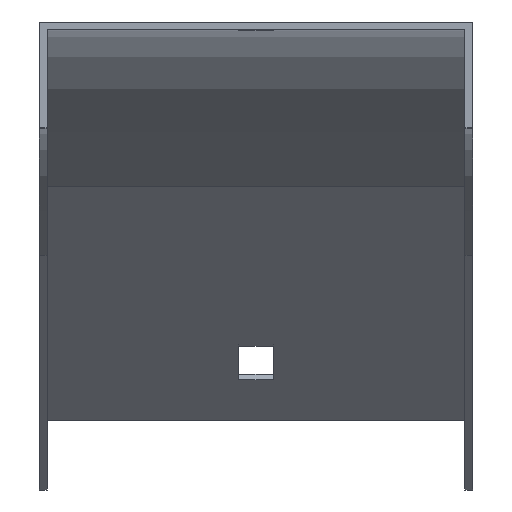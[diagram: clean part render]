
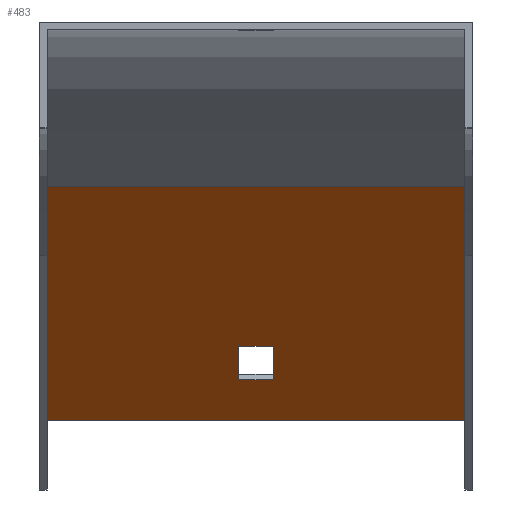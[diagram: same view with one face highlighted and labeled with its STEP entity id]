
A CAD part, top view. The second image highlights one B-rep face of the part: STEP entity #483.
In plain terms, the highlighted planar face has unit normal (0, -0.707, 0.707).
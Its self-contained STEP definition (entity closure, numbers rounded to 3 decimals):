
#13 = DIRECTION ( 'NONE',  ( 0., -0.707, -0.707 ) ) ;
#19 = EDGE_CURVE ( 'NONE', #174, #76, #768, .T. ) ;
#30 = DIRECTION ( 'NONE',  ( 0., 0.707, 0.707 ) ) ;
#44 = VERTEX_POINT ( 'NONE', #384 ) ;
#61 = CARTESIAN_POINT ( 'NONE',  ( 41., -75.146, -177.797 ) ) ;
#68 = EDGE_LOOP ( 'NONE', ( #767, #127, #553, #581 ) ) ;
#72 = CARTESIAN_POINT ( 'NONE',  ( -39.5, -75.146, -177.797 ) ) ;
#76 = VERTEX_POINT ( 'NONE', #308 ) ;
#82 = VECTOR ( 'NONE', #354, 1000. ) ;
#87 = PLANE ( 'NONE',  #834 ) ;
#127 = ORIENTED_EDGE ( 'NONE', *, *, #275, .F. ) ;
#145 = ORIENTED_EDGE ( 'NONE', *, *, #493, .T. ) ;
#154 = EDGE_LOOP ( 'NONE', ( #497, #427, #718, #145 ) ) ;
#155 = VECTOR ( 'NONE', #221, 1000. ) ;
#174 = VERTEX_POINT ( 'NONE', #853 ) ;
#178 = CARTESIAN_POINT ( 'NONE',  ( -3.25, -30.789, -133.441 ) ) ;
#186 = DIRECTION ( 'NONE',  ( 1., 0., 0. ) ) ;
#190 = CARTESIAN_POINT ( 'NONE',  ( -39.5, -30.789, -133.441 ) ) ;
#217 = CARTESIAN_POINT ( 'NONE',  ( -39.5, -30.789, -133.441 ) ) ;
#221 = DIRECTION ( 'NONE',  ( 0., 0.707, 0.707 ) ) ;
#222 = EDGE_CURVE ( 'NONE', #579, #174, #282, .T. ) ;
#232 = EDGE_CURVE ( 'NONE', #789, #597, #704, .T. ) ;
#261 = EDGE_CURVE ( 'NONE', #404, #44, #487, .T. ) ;
#275 = EDGE_CURVE ( 'NONE', #404, #789, #839, .T. ) ;
#282 = LINE ( 'NONE', #551, #82 ) ;
#308 = CARTESIAN_POINT ( 'NONE',  ( -3.25, -61.004, -163.655 ) ) ;
#337 = VECTOR ( 'NONE', #13, 1000. ) ;
#354 = DIRECTION ( 'NONE',  ( -1., 0., 0. ) ) ;
#359 = CARTESIAN_POINT ( 'NONE',  ( 3.25, -30.789, -133.441 ) ) ;
#368 = EDGE_CURVE ( 'NONE', #76, #570, #729, .T. ) ;
#384 = CARTESIAN_POINT ( 'NONE',  ( 39.5, -30.789, -133.441 ) ) ;
#404 = VERTEX_POINT ( 'NONE', #513 ) ;
#426 = DIRECTION ( 'NONE',  ( 0., 0.707, 0.707 ) ) ;
#427 = ORIENTED_EDGE ( 'NONE', *, *, #19, .T. ) ;
#483 = ADVANCED_FACE ( 'NONE', ( #688, #765 ), #87, .T. ) ;
#487 = LINE ( 'NONE', #557, #155 ) ;
#493 = EDGE_CURVE ( 'NONE', #570, #579, #614, .T. ) ;
#497 = ORIENTED_EDGE ( 'NONE', *, *, #222, .T. ) ;
#511 = CARTESIAN_POINT ( 'NONE',  ( 3.25, -61.004, -163.655 ) ) ;
#513 = CARTESIAN_POINT ( 'NONE',  ( 39.5, -75.146, -177.797 ) ) ;
#517 = DIRECTION ( 'NONE',  ( -1., 0., 0. ) ) ;
#546 = CARTESIAN_POINT ( 'NONE',  ( 41., -30.789, -133.441 ) ) ;
#551 = CARTESIAN_POINT ( 'NONE',  ( 41., -67.368, -170.019 ) ) ;
#553 = ORIENTED_EDGE ( 'NONE', *, *, #261, .T. ) ;
#555 = VECTOR ( 'NONE', #30, 1000. ) ;
#556 = DIRECTION ( 'NONE',  ( 0., -0.707, -0.707 ) ) ;
#557 = CARTESIAN_POINT ( 'NONE',  ( 39.5, -30.789, -133.441 ) ) ;
#570 = VERTEX_POINT ( 'NONE', #511 ) ;
#579 = VERTEX_POINT ( 'NONE', #629 ) ;
#581 = ORIENTED_EDGE ( 'NONE', *, *, #787, .T. ) ;
#592 = LINE ( 'NONE', #810, #595 ) ;
#595 = VECTOR ( 'NONE', #608, 1000. ) ;
#597 = VERTEX_POINT ( 'NONE', #190 ) ;
#603 = VECTOR ( 'NONE', #517, 1000. ) ;
#608 = DIRECTION ( 'NONE',  ( -1., 0., 0. ) ) ;
#614 = LINE ( 'NONE', #359, #337 ) ;
#629 = CARTESIAN_POINT ( 'NONE',  ( 3.25, -67.368, -170.019 ) ) ;
#641 = CARTESIAN_POINT ( 'NONE',  ( 41., -61.004, -163.655 ) ) ;
#684 = VECTOR ( 'NONE', #426, 1000. ) ;
#688 = FACE_OUTER_BOUND ( 'NONE', #68, .T. ) ;
#693 = DIRECTION ( 'NONE',  ( 0., -0.707, 0.707 ) ) ;
#704 = LINE ( 'NONE', #217, #684 ) ;
#718 = ORIENTED_EDGE ( 'NONE', *, *, #368, .T. ) ;
#729 = LINE ( 'NONE', #641, #743 ) ;
#743 = VECTOR ( 'NONE', #186, 1000. ) ;
#765 = FACE_BOUND ( 'NONE', #154, .T. ) ;
#767 = ORIENTED_EDGE ( 'NONE', *, *, #232, .F. ) ;
#768 = LINE ( 'NONE', #178, #555 ) ;
#787 = EDGE_CURVE ( 'NONE', #44, #597, #592, .T. ) ;
#789 = VERTEX_POINT ( 'NONE', #72 ) ;
#810 = CARTESIAN_POINT ( 'NONE',  ( 41., -30.789, -133.441 ) ) ;
#834 = AXIS2_PLACEMENT_3D ( 'NONE', #546, #693, #556 ) ;
#839 = LINE ( 'NONE', #61, #603 ) ;
#853 = CARTESIAN_POINT ( 'NONE',  ( -3.25, -67.368, -170.019 ) ) ;
